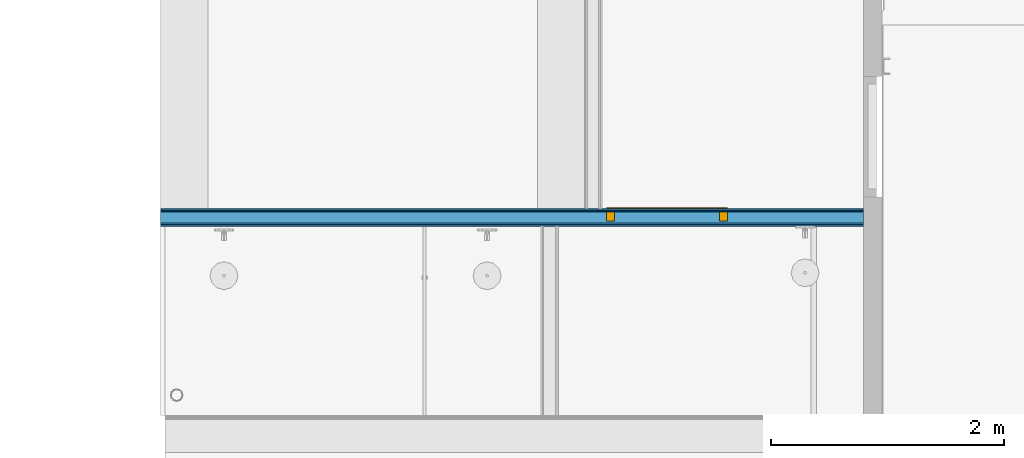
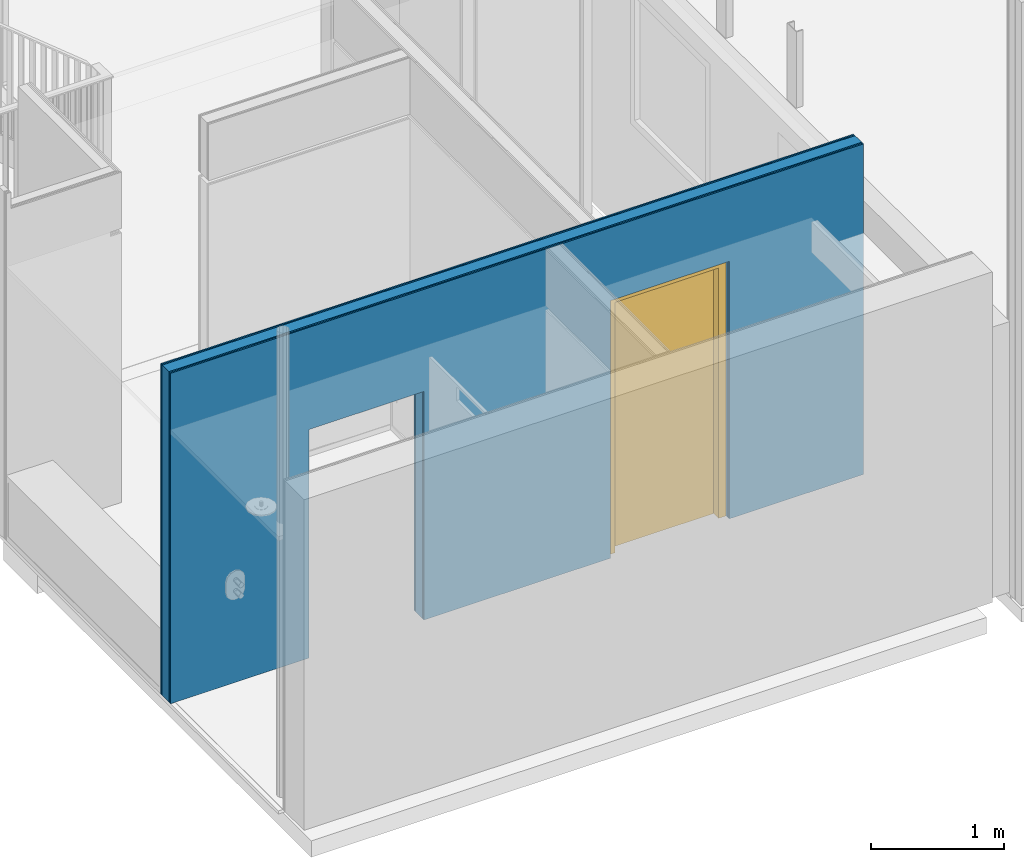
# One storey, part 16 of 35: 5 building element parts, 1 door, 2 openings, 1 element without a shape of its own.
"""IFC2X3 building model written with IfcOpenShell, lengths in millimetres."""

from ifc_helpers import new_model, entity, si_unit, converted_unit, derived_unit, money_unit, direction, frame, origin_with_axes, place, context, subcontext, project, spatial, faceted_brep, source, transform, mapped, material, type_object, type_shapes, element, fill, aggregate, save


model = new_model("IFC2X3")

# Units and contexts
model_context = context("Model", 3, precision=0.01, world=origin_with_axes(), true_north=direction((0.0, 1.0)))
body_context = subcontext(model_context, "Body", "Model", "MODEL_VIEW")
ifc_project = project(units=[si_unit("LENGTHUNIT", "METRE", prefix="MILLI"), si_unit("AREAUNIT", "SQUARE_METRE"), si_unit("VOLUMEUNIT", "CUBIC_METRE"), converted_unit("PLANEANGLEUNIT", "DEGREE", entity("IfcPlaneAngleMeasure", 0.0174532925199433), si_unit("PLANEANGLEUNIT", "RADIAN"), dimensions=[0, 0, 0, 0, 0, 0, 0]), money_unit("EUR"), converted_unit("TIMEUNIT", "Year", entity("IfcTimeMeasure", 31557600.0), si_unit("TIMEUNIT", "SECOND"), dimensions=[0, 0, 1, 0, 0, 0, 0]), si_unit("MASSUNIT", "GRAM", prefix="KILO"), si_unit("THERMODYNAMICTEMPERATUREUNIT", "DEGREE_CELSIUS"), si_unit("LUMINOUSINTENSITYUNIT", "LUMEN"), si_unit("ENERGYUNIT", "JOULE", prefix="MEGA"), derived_unit("THERMALCONDUCTANCEUNIT", [(si_unit("POWERUNIT", "WATT"), 1), (si_unit("LENGTHUNIT", "METRE"), -1), (si_unit("THERMODYNAMICTEMPERATUREUNIT", "KELVIN"), -1)]), derived_unit("SPECIFICHEATCAPACITYUNIT", [(si_unit("ENERGYUNIT", "JOULE"), 1), (si_unit("MASSUNIT", "GRAM", prefix="KILO"), -1), (si_unit("THERMODYNAMICTEMPERATUREUNIT", "KELVIN"), -1)]), derived_unit("MASSDENSITYUNIT", [(si_unit("MASSUNIT", "GRAM", prefix="KILO"), 1), (si_unit("VOLUMEUNIT", "CUBIC_METRE"), -1)])], contexts=[model_context])

# Site, building, storey
site_placement = place(None, origin_with_axes())
site = spatial("IfcSite", under=ifc_project, at=site_placement, Name="<site naam>", CompositionType="ELEMENT")
building_placement = place(site_placement, origin_with_axes())
building = spatial("IfcBuilding", under=site, at=building_placement, Name="<Naam gebouw>", CompositionType="ELEMENT")
storey_placement = place(building_placement, frame((0.0, 0.0, 6345.0), z_axis=(0.0, 0.0, 1.0), x_axis=(1.0, 0.0, 0.0)))
storey = spatial("IfcBuildingStorey", under=building, at=storey_placement, Name="02 2e tussenverdieping", CompositionType="ELEMENT", Elevation=6345.0)

# Door
door_style = type_object("IfcDoorStyle", Name="D1 27", ConstructionType="NOTDEFINED", OperationType="SINGLE_SWING_LEFT", ParameterTakesPrecedence=False, Sizeable=False)
shared_shape = source(origin_with_axes(), body_context, "Body", "Brep", [
    faceted_brep([(449.9999999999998, -40.0, 0.0), (450.0, -114.0, 0.0), (450.0, -114.0, 2300.0), (450.0, -39.99999999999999, 2300.0), (467.0, -40.0, 0.0), (467.0, 0.0, 0.0), (517.0, 0.0, 0.0), (517.0, -114.0, 0.0), (517.0, -114.0, 2300.0), (467.0, -40.0, 2300.0), (517.0, 0.0, 2300.0), (467.0, 0.0, 2300.0)], [[[0, 1, 2, 3]], [[4, 5, 6, 7, 1, 0]], [[1, 7, 8, 2]], [[9, 3, 2, 8, 10, 11]], [[9, 4, 0, 3]], [[11, 5, 4, 9]], [[11, 10, 6, 5]], [[6, 10, 8, 7]]]),
    faceted_brep([(-467.0, -40.0, 2300.0), (-467.0, 0.0, 2300.0), (-517.0, 0.0, 2300.0), (-517.0, -114.0, 2300.0), (-450.0, -114.0, 2300.0), (-450.0, -39.99999999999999, 2300.0), (-467.0, -40.0, 0.0), (-467.0, 0.0, 0.0), (-517.0, 0.0, 0.0), (-517.0, -114.0, 0.0), (-450.0, -114.0, 0.0), (-450.0, -40.0, 0.0)], [[[0, 1, 2, 3, 4, 5]], [[0, 6, 7, 1]], [[7, 8, 2, 1]], [[2, 8, 9, 3]], [[3, 9, 10, 4]], [[5, 4, 10, 11]], [[5, 11, 6, 0]], [[6, 11, 10, 9, 8, 7]]]),
    faceted_brep([(467.0, 0.0, 2317.0), (-467.0, 0.0, 2317.0), (-467.0, 0.0, 2300.0), (-517.0, 0.0, 2300.0), (-517.0, 0.0, 2367.0), (517.0, 0.0, 2367.0), (517.0, 0.0, 2300.0), (467.0, 0.0, 2300.0), (467.0, -40.0, 2317.0), (-467.0, -40.0, 2317.0), (-467.0, -40.0, 2300.0), (-450.0, -39.99999999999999, 2300.0), (-450.0, -114.0, 2300.0), (-517.0, -114.0, 2300.0), (-517.0, -114.0, 2367.0), (517.0, -114.0, 2367.0), (517.0, -114.0, 2300.0), (467.0, -40.0, 2300.0), (450.0, -114.0, 2300.0), (450.0, -39.99999999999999, 2300.0)], [[[0, 1, 2, 3, 4, 5, 6, 7]], [[0, 8, 9, 1]], [[1, 9, 10, 2]], [[10, 11, 12, 13, 3, 2]], [[4, 3, 13, 14]], [[5, 4, 14, 15]], [[6, 5, 15, 16]], [[17, 7, 6, 16, 18, 19]], [[7, 17, 8, 0]], [[10, 9, 8, 17, 19, 11]], [[19, 18, 12, 11]], [[12, 18, 16, 15, 14, 13]]]),
    faceted_brep([(-467.0000000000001, 0.0, 0.0), (467.0, 0.0, 0.0), (467.0, -40.0, 0.0), (-467.0000000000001, -40.0, 0.0), (-467.0000000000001, 0.0, 2317.0), (467.0, 0.0, 2317.0), (467.0, -40.00000000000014, 2317.0), (-467.0000000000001, -40.00000000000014, 2317.0)], [[[0, 1, 2, 3]], [[0, 4, 5, 1]], [[1, 5, 6, 2]], [[3, 2, 6, 7]], [[4, 0, 3, 7]], [[5, 4, 7, 6]]]),
])
type_shapes(door_style, [shared_shape])
wall_placement = place(storey_placement, frame((52135.00000000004, 2100.000000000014, 0.0), z_axis=(0.0, 0.0, 1.0), x_axis=(1.0, 0.0, 0.0)))
opening_2_placement = place(wall_placement, frame((4339.782844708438, 0.0, 0.0), z_axis=(0.0, 0.0, 1.0), x_axis=(1.0, 0.0, 0.0)))
door_placement = place(opening_2_placement, frame((-450.0000000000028, 0.0, 0.0), z_axis=(0.0, 0.0, 1.0), x_axis=(1.0, 0.0, 0.0)))
door = element("IfcDoor", 1, at=door_placement, inside=storey, type_object=door_style, Name="22_BI-A-04_305", ObjectType="DOOR", OverallHeight=2367.0, OverallWidth=1034.0, context=body_context, shape_type="MappedRepresentation", body=[
    mapped(shared_shape, transform((450.0000000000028, 160.0000000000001, 0.0))),
])

# Wall, openings
wall_type = type_object("IfcWallType", Name="MS-01 GF 150 ECO DGS/2.100.2.A 150", PredefinedType="NOTDEFINED")
wall = element("IfcWall", 2, at=wall_placement, inside=storey, type_object=wall_type, Name="22_Binnenwand_MS-01")
opening_1_placement = place(wall_placement, frame((1703.032187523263, 0.0, 0.0), z_axis=(0.0, 0.0, 1.0), x_axis=(1.0, 0.0, 0.0)))
element("IfcOpeningElement", 3, at=opening_1_placement, cuts=wall, Name="22__305", context=body_context, shape_type="Brep", body=[
    faceted_brep([(-500.0, -0.9999999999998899, 2100.0), (-500.0, -0.9999999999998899, 0.0), (500.0, -0.9999999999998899, 0.0), (500.0, -0.9999999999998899, 2100.0), (-500.0, 150.9999999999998, 2100.0), (-500.0, 150.9999999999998, 0.0), (500.0, 150.9999999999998, 0.0), (500.0, 150.9999999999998, 2100.0)], [[[0, 1, 2, 3]], [[4, 5, 1, 0]], [[5, 6, 2, 1]], [[6, 7, 3, 2]], [[7, 4, 0, 3]], [[6, 5, 4, 7]]]),
])
opening_2 = element("IfcOpeningElement", 4, at=opening_2_placement, cuts=wall, Name="22_BI-A-04_305", context=body_context, shape_type="Brep", body=[
    faceted_brep([(-517.000000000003, -0.9999999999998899, 2367.0), (-517.000000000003, -1.000000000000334, 0.0), (517.000000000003, -1.000000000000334, 0.0), (517.000000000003, -0.9999999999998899, 2367.0), (-517.000000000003, 151.0000000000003, 2367.0), (-517.000000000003, 150.9999999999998, 0.0), (517.000000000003, 150.9999999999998, 0.0), (517.000000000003, 151.0000000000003, 2367.0)], [[[0, 1, 2, 3]], [[4, 5, 1, 0]], [[5, 6, 2, 1]], [[6, 7, 3, 2]], [[7, 4, 0, 3]], [[6, 5, 4, 7]]]),
])

fill(opening_2, door)

# Building element part
ifc_material_1 = material(Name="gipsplaat")
building_element_part_1_placement = place(wall_placement, origin_with_axes())
building_element_part_1 = element("IfcBuildingElementPart", 5, at=building_element_part_1_placement, material=ifc_material_1, Name="gipsplaat", context=body_context, shape_type="Brep", body=[
    faceted_brep([(3822.782807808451, 150.0000595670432, 3.000000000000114), (3822.782807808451, 150.0000595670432, 0.0), (2203.032187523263, 150.0000595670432, 0.0), (2203.032187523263, 150.0000595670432, 3.000000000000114), (1203.032187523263, 150.0000595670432, 3.000000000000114), (1203.032187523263, 150.0000595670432, 0.0), (0.0, 149.9999999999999, 0.0), (0.0, 150.0000000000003, 3038.000000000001), (6022.782844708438, 150.0000000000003, 3038.000000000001), (6022.782844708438, 150.0000000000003, 0.0), (4856.782886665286, 150.0000595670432, 0.0), (4856.782886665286, 150.0000595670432, 3.000000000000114), (3822.782807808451, 137.5000000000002, 3.000000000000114), (3822.782807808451, 137.5000000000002, 0.0), (2203.032187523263, 137.5000000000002, 0.0), (2203.032187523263, 137.5000000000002, 3.000000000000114), (1203.032187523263, 137.4999999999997, 3.000000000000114), (1203.032187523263, 137.5000000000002, 0.0), (0.0, 137.5000000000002, 0.0), (0.0, 137.5000000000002, 3038.000000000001), (6022.782844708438, 137.5000000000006, 3038.000000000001), (6022.782844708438, 137.5000000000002, 0.0), (4856.782886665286, 137.5000000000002, 0.0), (4856.782886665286, 137.5000000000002, 3.000000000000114)], [[[0, 1, 2, 3, 4, 5, 6, 7, 8, 9, 10, 11]], [[1, 0, 12, 13]], [[1, 13, 14, 2]], [[3, 2, 14, 15]], [[4, 3, 15, 16]], [[5, 4, 16, 17]], [[5, 17, 18, 6]], [[18, 19, 7, 6]], [[19, 20, 8, 7]], [[8, 20, 21, 9]], [[22, 10, 9, 21]], [[11, 10, 22, 23]], [[0, 11, 23, 12]], [[23, 22, 21, 20, 19, 18, 17, 16, 15, 14, 13, 12]]]),
])

building_element_part_2_placement = place(wall_placement, origin_with_axes())
building_element_part_2 = element("IfcBuildingElementPart", 6, at=building_element_part_2_placement, material=ifc_material_1, Name="gipsplaat", context=body_context, shape_type="Brep", body=[
    faceted_brep([(3822.782807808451, 137.5000000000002, 3.000000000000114), (3822.782807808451, 137.5000000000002, 0.0), (2203.032187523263, 137.5000000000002, 0.0), (2203.032187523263, 137.5000000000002, 3.000000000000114), (1203.032187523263, 137.5000000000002, 3.000000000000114), (1203.032187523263, 137.5000000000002, 0.0), (0.0, 137.5000000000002, 0.0), (0.0, 137.5000000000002, 3038.000000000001), (6022.782844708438, 137.5000000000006, 3038.000000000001), (6022.782844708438, 137.5000000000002, 0.0), (4856.782886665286, 137.5000000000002, 0.0), (4856.782886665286, 137.5000000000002, 3.000000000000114), (3822.782807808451, 125.0, 3.000000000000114), (3822.782807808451, 125.0, 0.0), (2203.032187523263, 125.0, 0.0), (2203.032187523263, 125.0, 3.000000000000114), (1203.032187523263, 125.0, 3.000000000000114), (1203.032187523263, 125.0, 0.0), (0.0, 125.0, 0.0), (0.0, 125.0, 3038.000000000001), (6022.782844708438, 125.0000000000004, 3038.000000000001), (6022.782844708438, 125.0000000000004, 0.0), (4856.782886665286, 125.0000000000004, 0.0), (4856.782886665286, 125.0000000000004, 3.000000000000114)], [[[0, 1, 2, 3, 4, 5, 6, 7, 8, 9, 10, 11]], [[1, 0, 12, 13]], [[1, 13, 14, 2]], [[3, 2, 14, 15]], [[4, 3, 15, 16]], [[5, 4, 16, 17]], [[5, 17, 18, 6]], [[18, 19, 7, 6]], [[19, 20, 8, 7]], [[8, 20, 21, 9]], [[22, 10, 9, 21]], [[11, 10, 22, 23]], [[0, 11, 23, 12]], [[23, 22, 21, 20, 19, 18, 17, 16, 15, 14, 13, 12]]]),
])

building_element_part_3_placement = place(wall_placement, origin_with_axes())
building_element_part_3 = element("IfcBuildingElementPart", 7, at=building_element_part_3_placement, material=ifc_material_1, Name="gipsplaat", context=body_context, shape_type="Brep", body=[
    faceted_brep([(3822.782807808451, 24.99999999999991, 3.000000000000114), (3822.782807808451, 25.00000000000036, 0.0), (2203.032187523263, 25.00000000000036, 0.0), (2203.032187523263, 24.99999999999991, 3.000000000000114), (1203.032187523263, 24.99999999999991, 3.000000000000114), (1203.032187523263, 24.99999999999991, 0.0), (0.0, 24.99999999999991, 0.0), (0.0, 25.00000000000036, 3038.000000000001), (6022.782844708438, 25.00000000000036, 3038.000000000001), (6022.782844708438, 25.00000000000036, 0.0), (4856.782886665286, 25.00000000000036, 0.0), (4856.782886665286, 24.99999999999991, 3.000000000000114), (3822.782807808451, 12.50000000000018, 3.000000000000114), (3822.782807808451, 12.50000000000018, 0.0), (2203.032187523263, 12.50000000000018, 0.0), (2203.032187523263, 12.50000000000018, 3.000000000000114), (1203.032187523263, 12.49999999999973, 3.000000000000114), (1203.032187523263, 12.50000000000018, 0.0), (0.0, 12.50000000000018, 0.0), (0.0, 12.50000000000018, 3038.000000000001), (6022.782844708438, 12.50000000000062, 3038.000000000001), (6022.782844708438, 12.50000000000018, 0.0), (4856.782886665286, 12.50000000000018, 0.0), (4856.782886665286, 12.50000000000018, 3.000000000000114)], [[[0, 1, 2, 3, 4, 5, 6, 7, 8, 9, 10, 11]], [[1, 0, 12, 13]], [[1, 13, 14, 2]], [[3, 2, 14, 15]], [[4, 3, 15, 16]], [[5, 4, 16, 17]], [[5, 17, 18, 6]], [[18, 19, 7, 6]], [[19, 20, 8, 7]], [[8, 20, 21, 9]], [[22, 10, 9, 21]], [[11, 10, 22, 23]], [[0, 11, 23, 12]], [[23, 22, 21, 20, 19, 18, 17, 16, 15, 14, 13, 12]]]),
])

ifc_material_2 = material(Name="isolatie_steenwol LSW")
building_element_part_4_placement = place(wall_placement, origin_with_axes())
building_element_part_4 = element("IfcBuildingElementPart", 8, at=building_element_part_4_placement, material=ifc_material_2, Name="isolatie_steenwol LSW", context=body_context, shape_type="Brep", body=[
    faceted_brep([(3822.782807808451, 125.0, 3.000000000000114), (3822.782807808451, 125.0, 0.0), (2203.032187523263, 125.0, 0.0), (2203.032187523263, 125.0, 3.000000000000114), (1203.032187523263, 125.0, 3.000000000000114), (1203.032187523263, 125.0, 0.0), (0.0, 125.0, 0.0), (0.0, 125.0, 3038.000000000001), (6022.782844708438, 125.0000000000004, 3038.000000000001), (6022.782844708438, 125.0000000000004, 0.0), (4856.782886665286, 125.0000000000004, 0.0), (4856.782886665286, 125.0, 3.000000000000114), (3822.782807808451, 25.00000000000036, 3.000000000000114), (3822.782807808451, 25.00000000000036, 0.0), (2203.032187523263, 25.00000000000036, 0.0), (2203.032187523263, 25.00000000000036, 3.000000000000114), (1203.032187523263, 24.99999999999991, 3.000000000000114), (1203.032187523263, 24.99999999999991, 0.0), (0.0, 24.99999999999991, 0.0), (0.0, 25.00000000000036, 3038.000000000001), (6022.782844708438, 25.00000000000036, 3038.000000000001), (6022.782844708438, 25.00000000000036, 0.0), (4856.782886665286, 25.00000000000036, 0.0), (4856.782886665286, 25.00000000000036, 3.000000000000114)], [[[0, 1, 2, 3, 4, 5, 6, 7, 8, 9, 10, 11]], [[1, 0, 12, 13]], [[1, 13, 14, 2]], [[3, 2, 14, 15]], [[4, 3, 15, 16]], [[5, 4, 16, 17]], [[5, 17, 18, 6]], [[18, 19, 7, 6]], [[19, 20, 8, 7]], [[8, 20, 21, 9]], [[22, 10, 9, 21]], [[11, 10, 22, 23]], [[0, 11, 23, 12]], [[23, 22, 21, 20, 19, 18, 17, 16, 15, 14, 13, 12]]]),
])

building_element_part_5_placement = place(wall_placement, origin_with_axes())
building_element_part_5 = element("IfcBuildingElementPart", 9, at=building_element_part_5_placement, material=ifc_material_1, Name="gipsplaat", context=body_context, shape_type="Brep", body=[
    faceted_brep([(3822.782807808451, 12.50000000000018, 3.000000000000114), (3822.782807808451, 12.50000000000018, 0.0), (2203.032187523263, 12.50000000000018, 0.0), (2203.032187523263, 12.50000000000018, 3.000000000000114), (1203.032187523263, 12.50000000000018, 3.000000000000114), (1203.032187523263, 12.50000000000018, 0.0), (0.0, 12.50000000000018, 0.0), (0.0, 12.50000000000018, 3038.000000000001), (6022.782844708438, 12.50000000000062, 3038.000000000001), (6022.782844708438, 12.50000000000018, 0.0), (4856.782886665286, 12.50000000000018, 0.0), (4856.782886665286, 12.50000000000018, 3.000000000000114), (3822.782807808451, 0.0, 3.000000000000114), (3822.782807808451, 0.0, 0.0), (2203.032187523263, 0.0, 0.0), (2203.032187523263, 0.0, 3.000000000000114), (1203.032187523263, 0.0, 3.000000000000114), (1203.032187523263, 0.0, 0.0), (0.0, 0.0, 0.0), (0.0, 0.0, 3038.000000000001), (6022.782844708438, 0.0, 3038.000000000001), (6022.782844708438, 0.0, 0.0), (4856.782886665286, 0.0, 0.0), (4856.782886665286, 0.0, 3.000000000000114)], [[[0, 1, 2, 3, 4, 5, 6, 7, 8, 9, 10, 11]], [[1, 0, 12, 13]], [[1, 13, 14, 2]], [[3, 2, 14, 15]], [[4, 3, 15, 16]], [[5, 4, 16, 17]], [[5, 17, 18, 6]], [[18, 19, 7, 6]], [[19, 20, 8, 7]], [[8, 20, 21, 9]], [[22, 10, 9, 21]], [[11, 10, 22, 23]], [[0, 11, 23, 12]], [[23, 22, 21, 20, 19, 18, 17, 16, 15, 14, 13, 12]]]),
])

aggregate(wall, [building_element_part_1, building_element_part_2, building_element_part_3, building_element_part_4, building_element_part_5])

save(model, "model.ifc")
